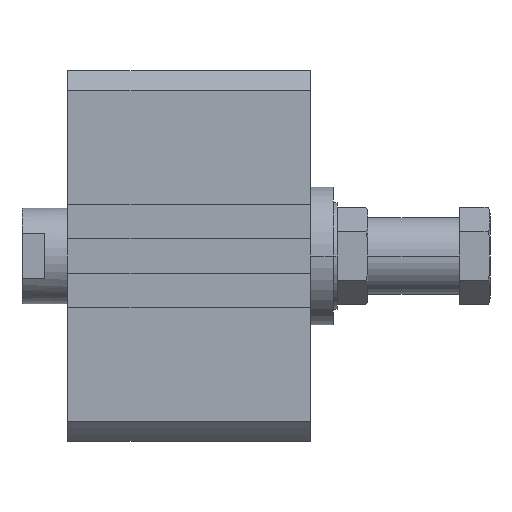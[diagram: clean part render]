
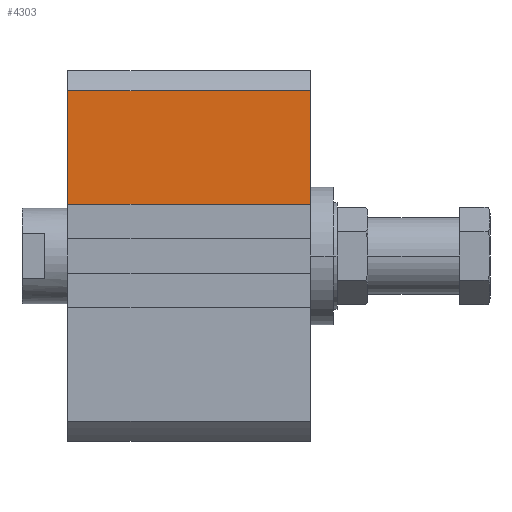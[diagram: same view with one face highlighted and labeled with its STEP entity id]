
A CAD part, left-side view. The second image highlights one B-rep face of the part: STEP entity #4303.
In plain terms, the highlighted planar face has unit normal (-1, 0, 0).
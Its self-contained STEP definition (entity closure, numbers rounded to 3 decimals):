
#56 = DIRECTION ( 'NONE',  ( 0., 1., 0. ) ) ;
#112 = CARTESIAN_POINT ( 'NONE',  ( -48.5, 0., 0. ) ) ;
#166 = ORIENTED_EDGE ( 'NONE', *, *, #270, .F. ) ;
#270 = EDGE_CURVE ( 'NONE', #2307, #764, #505, .T. ) ;
#405 = DIRECTION ( 'NONE',  ( 0., 1., 0. ) ) ;
#427 = DIRECTION ( 'NONE',  ( -1., 0., 0. ) ) ;
#502 = AXIS2_PLACEMENT_3D ( 'NONE', #3676, #427, #4464 ) ;
#505 = LINE ( 'NONE', #777, #3335 ) ;
#546 = DIRECTION ( 'NONE',  ( 0., 0., 1. ) ) ;
#764 = VERTEX_POINT ( 'NONE', #1073 ) ;
#777 = CARTESIAN_POINT ( 'NONE',  ( -48.5, -63.5, 13.5 ) ) ;
#929 = CARTESIAN_POINT ( 'NONE',  ( -48.5, 0., 43.275 ) ) ;
#1073 = CARTESIAN_POINT ( 'NONE',  ( -48.5, 0., 13.5 ) ) ;
#1420 = VECTOR ( 'NONE', #405, 1000. ) ;
#1424 = CARTESIAN_POINT ( 'NONE',  ( -48.5, -63.5, 0. ) ) ;
#1929 = ORIENTED_EDGE ( 'NONE', *, *, #2319, .F. ) ;
#2173 = EDGE_LOOP ( 'NONE', ( #1929, #166, #4532, #3712 ) ) ;
#2183 = EDGE_CURVE ( 'NONE', #3004, #3173, #2366, .T. ) ;
#2307 = VERTEX_POINT ( 'NONE', #3824 ) ;
#2319 = EDGE_CURVE ( 'NONE', #764, #3173, #3203, .T. ) ;
#2366 = LINE ( 'NONE', #3691, #1420 ) ;
#2469 = LINE ( 'NONE', #1424, #3031 ) ;
#2584 = FACE_OUTER_BOUND ( 'NONE', #2173, .T. ) ;
#2737 = DIRECTION ( 'NONE',  ( 0., 0., 1. ) ) ;
#3004 = VERTEX_POINT ( 'NONE', #4543 ) ;
#3031 = VECTOR ( 'NONE', #546, 1000. ) ;
#3173 = VERTEX_POINT ( 'NONE', #929 ) ;
#3203 = LINE ( 'NONE', #112, #3939 ) ;
#3330 = PLANE ( 'NONE',  #502 ) ;
#3335 = VECTOR ( 'NONE', #56, 1000. ) ;
#3676 = CARTESIAN_POINT ( 'NONE',  ( -48.5, -63.5, 0. ) ) ;
#3691 = CARTESIAN_POINT ( 'NONE',  ( -48.5, -63.5, 43.275 ) ) ;
#3712 = ORIENTED_EDGE ( 'NONE', *, *, #2183, .T. ) ;
#3824 = CARTESIAN_POINT ( 'NONE',  ( -48.5, -63.5, 13.5 ) ) ;
#3830 = EDGE_CURVE ( 'NONE', #2307, #3004, #2469, .T. ) ;
#3939 = VECTOR ( 'NONE', #2737, 1000. ) ;
#4303 = ADVANCED_FACE ( 'NONE', ( #2584 ), #3330, .T. ) ;
#4464 = DIRECTION ( 'NONE',  ( 0., 0., 1. ) ) ;
#4532 = ORIENTED_EDGE ( 'NONE', *, *, #3830, .T. ) ;
#4543 = CARTESIAN_POINT ( 'NONE',  ( -48.5, -63.5, 43.275 ) ) ;
